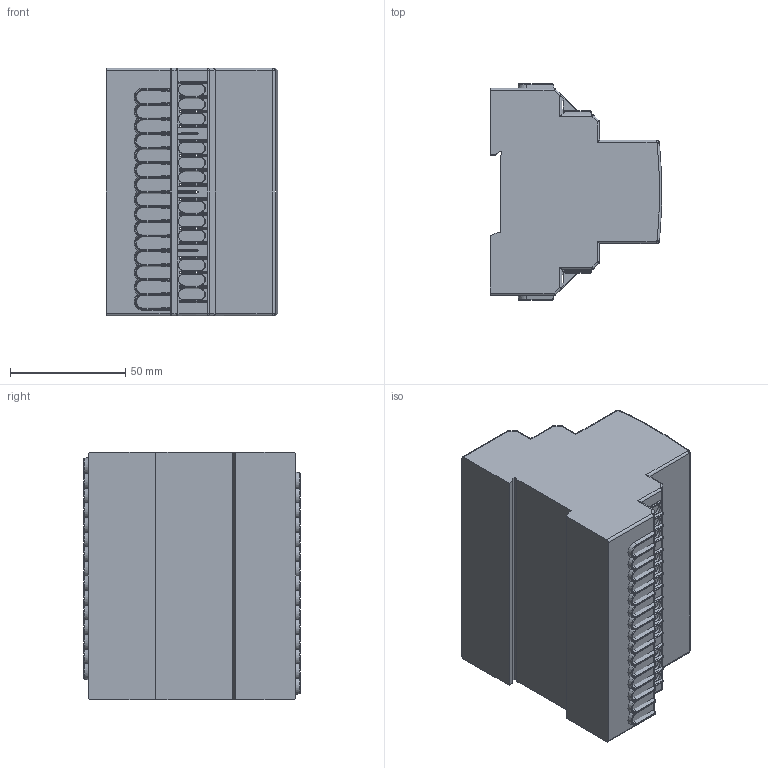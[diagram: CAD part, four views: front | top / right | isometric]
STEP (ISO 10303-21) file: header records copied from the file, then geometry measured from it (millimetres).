
FILE_DESCRIPTION(/* description */ (''),/* implementation_level */ '2;1');
FILE_NAME(/* name */ 'X:\Digidirect\CAD\Importierte Komponenten\XM460_Komplette Klemmenbestückung\XM460_Komplette Klemmenbestückung 16.stp',/* time_stamp */ '2013-10-10T10:58:53+02:00',/* author */ ('Maik Jost'),/* organization */ (''),/* preprocessor_version */ 'ST-DEVELOPER v15.2',/* originating_system */ 'Autodesk Inventor 2014',/* authorisation */ '');
FILE_SCHEMA (('CONFIG_CONTROL_DESIGN'));
Length unit declared in the file: millimetre
Products named in the file (2): XM460_Komplette Klemmenbestückung_Substitute_13; XM460_Komplette Klemmenbestückung
Bounding box: 74.39 x 94 x 107.5 mm (x, y, z)
Surface area: 49979.6 mm2 (no closed solid volume)
Topology: 0 solids, 11 shells, 865 faces, 3227 edges, 2284 vertices
Faces by surface type: plane 282, cylinder 273, bspline 120, cone 108, torus 66, sphere 16
Entity records: 36964 total; most frequent: CARTESIAN_POINT 11275, DIRECTION 5355, ORIENTED_EDGE 4878, EDGE_CURVE 3219, VERTEX_POINT 2284, AXIS2_PLACEMENT_3D 1838, LINE 1679, VECTOR 1679
